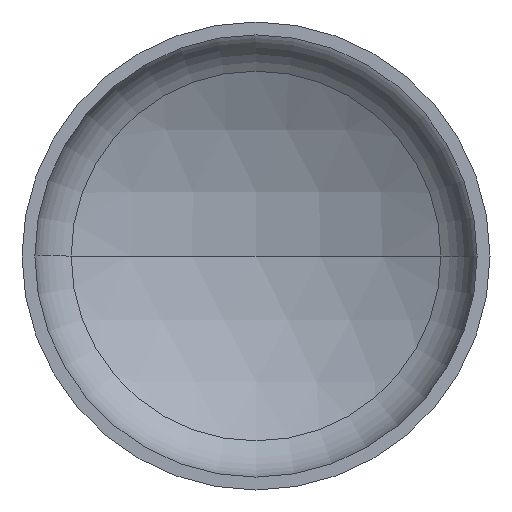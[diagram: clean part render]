
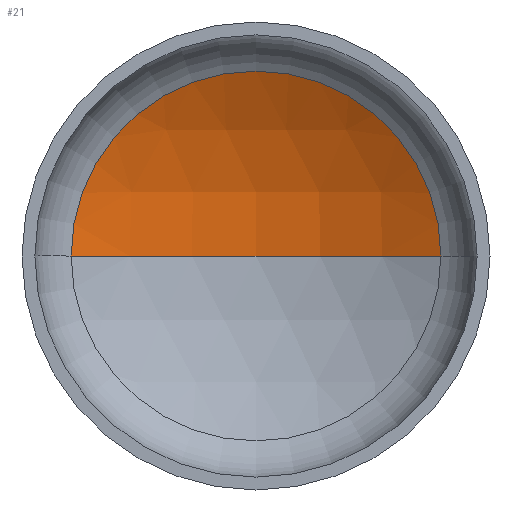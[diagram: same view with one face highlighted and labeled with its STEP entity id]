
A CAD part, front view. The second image highlights one B-rep face of the part: STEP entity #21.
In plain terms, the highlighted spherical face has radius 1280 mm.
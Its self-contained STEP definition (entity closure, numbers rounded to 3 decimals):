
#2 = VERTEX_POINT ( 'NONE', #225 ) ;
#10 = DIRECTION ( 'NONE',  ( 1., 0., 0. ) ) ;
#21 = ADVANCED_FACE ( 'NONE', ( #125 ), #25, .F. ) ;
#23 = AXIS2_PLACEMENT_3D ( 'NONE', #400, #239, #10 ) ;
#25 = SPHERICAL_SURFACE ( 'NONE', #42, 1280. ) ;
#26 = AXIS2_PLACEMENT_3D ( 'NONE', #155, #134, #136 ) ;
#27 = AXIS2_PLACEMENT_3D ( 'NONE', #171, #166, #169 ) ;
#42 = AXIS2_PLACEMENT_3D ( 'NONE', #221, #256, #259 ) ;
#59 = EDGE_CURVE ( 'NONE', #184, #378, #110, .T. ) ;
#63 = EDGE_CURVE ( 'NONE', #2, #184, #405, .T. ) ;
#67 = EDGE_CURVE ( 'NONE', #2, #378, #263, .T. ) ;
#110 = CIRCLE ( 'NONE', #27, 631.961 ) ;
#119 = CARTESIAN_POINT ( 'NONE',  ( -631.961, 353.057, 0. ) ) ;
#125 = FACE_OUTER_BOUND ( 'NONE', #172, .T. ) ;
#134 = DIRECTION ( 'NONE',  ( 0., 0., -1. ) ) ;
#136 = DIRECTION ( 'NONE',  ( -1., 0., 0. ) ) ;
#155 = CARTESIAN_POINT ( 'NONE',  ( 0., -760.058, 0. ) ) ;
#166 = DIRECTION ( 'NONE',  ( 0., -1., 0. ) ) ;
#169 = DIRECTION ( 'NONE',  ( 1., 0., 0. ) ) ;
#171 = CARTESIAN_POINT ( 'NONE',  ( 0., 353.057, 0. ) ) ;
#172 = EDGE_LOOP ( 'NONE', ( #219, #224, #393 ) ) ;
#184 = VERTEX_POINT ( 'NONE', #251 ) ;
#219 = ORIENTED_EDGE ( 'NONE', *, *, #67, .F. ) ;
#221 = CARTESIAN_POINT ( 'NONE',  ( 0., -760.058, 0. ) ) ;
#224 = ORIENTED_EDGE ( 'NONE', *, *, #63, .T. ) ;
#225 = CARTESIAN_POINT ( 'NONE',  ( 0., 519.942, 0. ) ) ;
#239 = DIRECTION ( 'NONE',  ( 0., 0., 1. ) ) ;
#251 = CARTESIAN_POINT ( 'NONE',  ( 631.961, 353.057, 0. ) ) ;
#256 = DIRECTION ( 'NONE',  ( 0., 0., -1. ) ) ;
#259 = DIRECTION ( 'NONE',  ( -1., 0., 0. ) ) ;
#263 = CIRCLE ( 'NONE', #23, 1280. ) ;
#378 = VERTEX_POINT ( 'NONE', #119 ) ;
#393 = ORIENTED_EDGE ( 'NONE', *, *, #59, .T. ) ;
#400 = CARTESIAN_POINT ( 'NONE',  ( 0., -760.058, 0. ) ) ;
#405 = CIRCLE ( 'NONE', #26, 1280. ) ;
